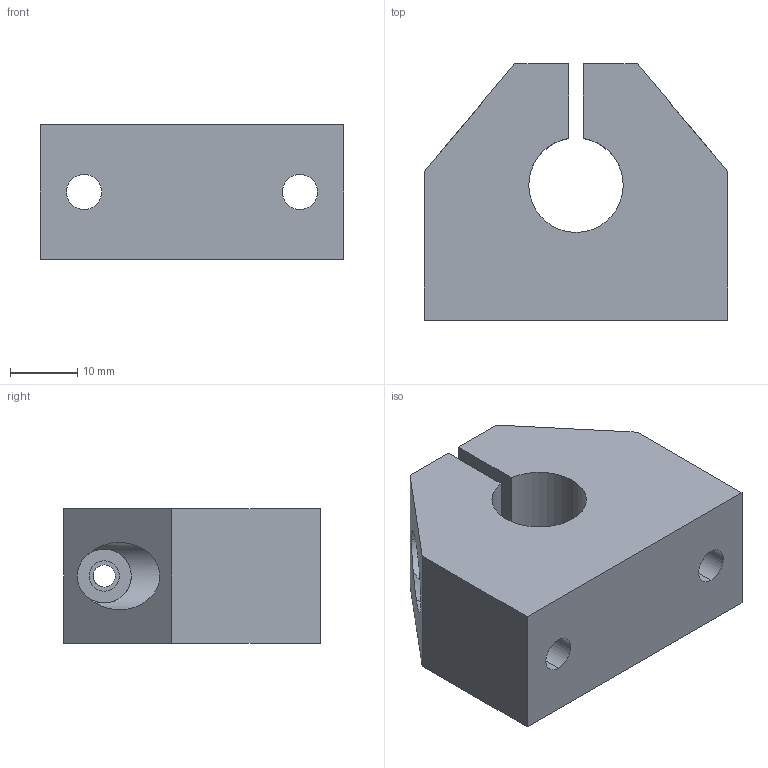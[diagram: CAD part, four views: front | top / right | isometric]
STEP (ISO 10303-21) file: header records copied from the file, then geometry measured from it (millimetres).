
FILE_DESCRIPTION (( 'STEP AP214' ), '1' );
FILE_NAME ('KWBC58-14.step', '2020-03-04T13:11:18', ( '' ), ( '' ), 'SwSTEP 2.0', 'SolidWorks 2019', '' );
FILE_SCHEMA (( 'AUTOMOTIVE_DESIGN' ));
Length unit declared in the file: millimetre
Products named in the file (1): KWBC58-14
Bounding box: 45 x 38 x 20 mm (x, y, z)
Volume: 23254.9 mm3; surface area: 8286.6 mm2
Topology: 1 solids, 1 shells, 31 faces, 81 edges, 54 vertices
Faces by surface type: cylinder 17, plane 14
Entity records: 1177 total; most frequent: CARTESIAN_POINT 296, ORIENTED_EDGE 162, DIRECTION 160, EDGE_CURVE 81, AXIS2_PLACEMENT_3D 58, VERTEX_POINT 54, VECTOR 44, LINE 44
